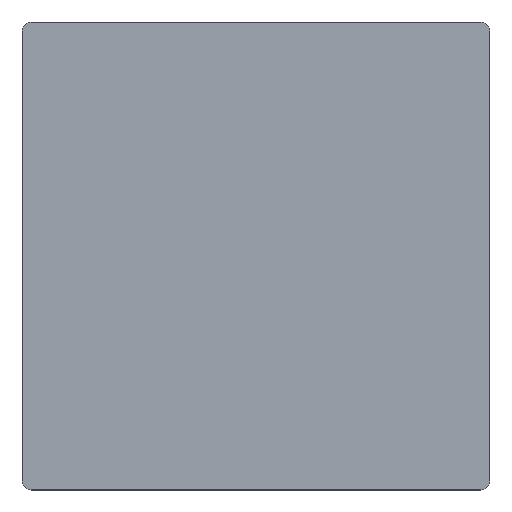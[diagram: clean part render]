
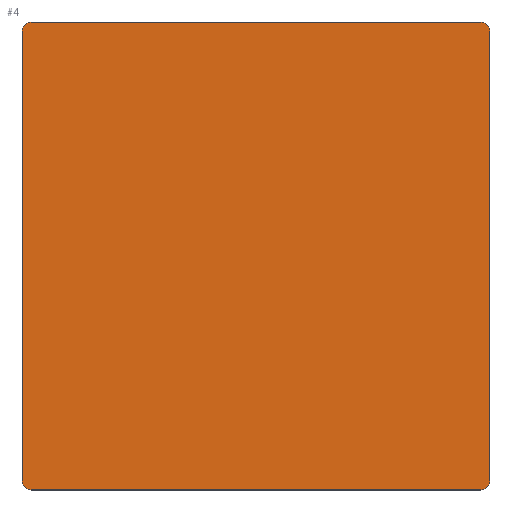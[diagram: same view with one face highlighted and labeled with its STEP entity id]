
A CAD part, top view. The second image highlights one B-rep face of the part: STEP entity #4.
In plain terms, the highlighted planar face has unit normal (0, 0, 1).
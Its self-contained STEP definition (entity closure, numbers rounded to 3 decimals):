
#2 = VECTOR ( 'NONE', #118, 1000. ) ;
#4 = ADVANCED_FACE ( 'NONE', ( #86 ), #109, .F. ) ;
#5 = EDGE_CURVE ( 'NONE', #218, #99, #8, .T. ) ;
#8 = LINE ( 'NONE', #89, #228 ) ;
#23 = VERTEX_POINT ( 'NONE', #256 ) ;
#34 = CARTESIAN_POINT ( 'NONE',  ( -50.15, 50.15, 4. ) ) ;
#35 = CARTESIAN_POINT ( 'NONE',  ( 52.25, -52.25, 4. ) ) ;
#48 = ORIENTED_EDGE ( 'NONE', *, *, #196, .T. ) ;
#60 = DIRECTION ( 'NONE',  ( 0., 1., 0. ) ) ;
#61 = AXIS2_PLACEMENT_3D ( 'NONE', #212, #264, #268 ) ;
#63 = DIRECTION ( 'NONE',  ( -1., 0., 0. ) ) ;
#66 = DIRECTION ( 'NONE',  ( -1., 0., 0. ) ) ;
#67 = AXIS2_PLACEMENT_3D ( 'NONE', #234, #202, #276 ) ;
#70 = ORIENTED_EDGE ( 'NONE', *, *, #231, .T. ) ;
#81 = VECTOR ( 'NONE', #63, 1000. ) ;
#86 = FACE_OUTER_BOUND ( 'NONE', #131, .T. ) ;
#89 = CARTESIAN_POINT ( 'NONE',  ( -52.25, -52.25, 4. ) ) ;
#98 = AXIS2_PLACEMENT_3D ( 'NONE', #34, #236, #141 ) ;
#99 = VERTEX_POINT ( 'NONE', #159 ) ;
#109 = PLANE ( 'NONE',  #67 ) ;
#117 = EDGE_CURVE ( 'NONE', #23, #222, #310, .T. ) ;
#118 = DIRECTION ( 'NONE',  ( 1., 0., 0. ) ) ;
#120 = CIRCLE ( 'NONE', #61, 2.1 ) ;
#128 = ORIENTED_EDGE ( 'NONE', *, *, #230, .T. ) ;
#131 = EDGE_LOOP ( 'NONE', ( #195, #70, #48, #156, #128, #295, #177, #138 ) ) ;
#138 = ORIENTED_EDGE ( 'NONE', *, *, #139, .T. ) ;
#139 = EDGE_CURVE ( 'NONE', #222, #218, #241, .T. ) ;
#141 = DIRECTION ( 'NONE',  ( -1., 0., 0. ) ) ;
#144 = LINE ( 'NONE', #145, #2 ) ;
#145 = CARTESIAN_POINT ( 'NONE',  ( 52.25, -52.25, 4. ) ) ;
#156 = ORIENTED_EDGE ( 'NONE', *, *, #224, .T. ) ;
#159 = CARTESIAN_POINT ( 'NONE',  ( -52.25, -50.15, 4. ) ) ;
#163 = VECTOR ( 'NONE', #60, 1000. ) ;
#167 = EDGE_CURVE ( 'NONE', #252, #23, #120, .T. ) ;
#173 = VERTEX_POINT ( 'NONE', #211 ) ;
#177 = ORIENTED_EDGE ( 'NONE', *, *, #117, .T. ) ;
#186 = CARTESIAN_POINT ( 'NONE',  ( -50.15, 52.25, 4. ) ) ;
#189 = CIRCLE ( 'NONE', #302, 2.1 ) ;
#195 = ORIENTED_EDGE ( 'NONE', *, *, #5, .T. ) ;
#196 = EDGE_CURVE ( 'NONE', #244, #200, #144, .T. ) ;
#200 = VERTEX_POINT ( 'NONE', #266 ) ;
#202 = DIRECTION ( 'NONE',  ( 0., 0., -1. ) ) ;
#210 = DIRECTION ( 'NONE',  ( 0., -1., 0. ) ) ;
#211 = CARTESIAN_POINT ( 'NONE',  ( 52.25, -50.15, 4. ) ) ;
#212 = CARTESIAN_POINT ( 'NONE',  ( 50.15, 50.15, 4. ) ) ;
#213 = CARTESIAN_POINT ( 'NONE',  ( 52.25, 50.15, 4. ) ) ;
#216 = CARTESIAN_POINT ( 'NONE',  ( -52.25, 50.15, 4. ) ) ;
#218 = VERTEX_POINT ( 'NONE', #216 ) ;
#222 = VERTEX_POINT ( 'NONE', #186 ) ;
#224 = EDGE_CURVE ( 'NONE', #200, #173, #189, .T. ) ;
#228 = VECTOR ( 'NONE', #210, 1000. ) ;
#230 = EDGE_CURVE ( 'NONE', #173, #252, #286, .T. ) ;
#231 = EDGE_CURVE ( 'NONE', #99, #244, #297, .T. ) ;
#234 = CARTESIAN_POINT ( 'NONE',  ( 0., 0., 4. ) ) ;
#236 = DIRECTION ( 'NONE',  ( 0., 0., 1. ) ) ;
#238 = DIRECTION ( 'NONE',  ( -1., 0., 0. ) ) ;
#240 = DIRECTION ( 'NONE',  ( 0., 0., 1. ) ) ;
#241 = CIRCLE ( 'NONE', #98, 2.1 ) ;
#244 = VERTEX_POINT ( 'NONE', #311 ) ;
#252 = VERTEX_POINT ( 'NONE', #213 ) ;
#254 = CARTESIAN_POINT ( 'NONE',  ( 50.15, -50.15, 4. ) ) ;
#256 = CARTESIAN_POINT ( 'NONE',  ( 50.15, 52.25, 4. ) ) ;
#262 = CARTESIAN_POINT ( 'NONE',  ( -50.15, -50.15, 4. ) ) ;
#264 = DIRECTION ( 'NONE',  ( 0., 0., 1. ) ) ;
#266 = CARTESIAN_POINT ( 'NONE',  ( 50.15, -52.25, 4. ) ) ;
#268 = DIRECTION ( 'NONE',  ( -1., 0., 0. ) ) ;
#276 = DIRECTION ( 'NONE',  ( -1., 0., 0. ) ) ;
#286 = LINE ( 'NONE', #35, #163 ) ;
#288 = CARTESIAN_POINT ( 'NONE',  ( 52.25, 52.25, 4. ) ) ;
#295 = ORIENTED_EDGE ( 'NONE', *, *, #167, .T. ) ;
#297 = CIRCLE ( 'NONE', #308, 2.1 ) ;
#302 = AXIS2_PLACEMENT_3D ( 'NONE', #254, #314, #238 ) ;
#308 = AXIS2_PLACEMENT_3D ( 'NONE', #262, #240, #66 ) ;
#310 = LINE ( 'NONE', #288, #81 ) ;
#311 = CARTESIAN_POINT ( 'NONE',  ( -50.15, -52.25, 4. ) ) ;
#314 = DIRECTION ( 'NONE',  ( 0., 0., 1. ) ) ;
